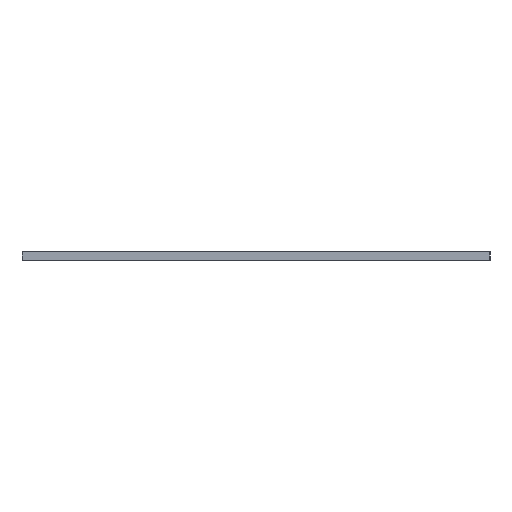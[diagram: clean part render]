
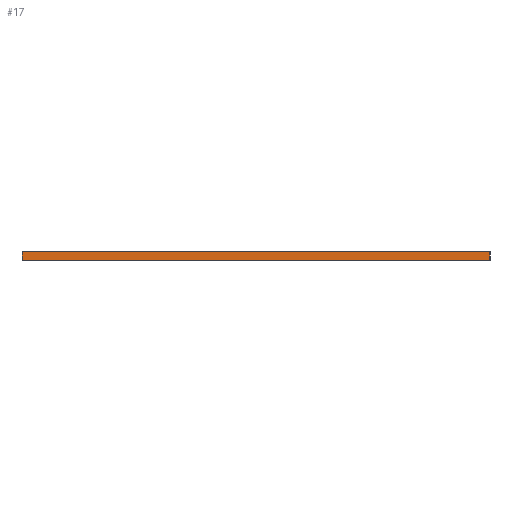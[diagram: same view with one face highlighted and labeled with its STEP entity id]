
A CAD part, left-side view. The second image highlights one B-rep face of the part: STEP entity #17.
In plain terms, the highlighted planar face has unit normal (-1, 0, 0).
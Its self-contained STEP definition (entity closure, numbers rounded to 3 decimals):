
#17 = ADVANCED_FACE('',(#18),#32,.F.);
#18 = FACE_BOUND('',#19,.F.);
#19 = EDGE_LOOP('',(#20,#55,#83,#111));
#20 = ORIENTED_EDGE('',*,*,#21,.F.);
#21 = EDGE_CURVE('',#22,#24,#26,.T.);
#22 = VERTEX_POINT('',#23);
#23 = CARTESIAN_POINT('',(0.,0.,0.));
#24 = VERTEX_POINT('',#25);
#25 = CARTESIAN_POINT('',(0.,0.,18.));
#26 = SURFACE_CURVE('',#27,(#31,#43),.PCURVE_S1.);
#27 = LINE('',#28,#29);
#28 = CARTESIAN_POINT('',(0.,0.,0.));
#29 = VECTOR('',#30,1.);
#30 = DIRECTION('',(0.,0.,1.));
#31 = PCURVE('',#32,#37);
#32 = PLANE('',#33);
#33 = AXIS2_PLACEMENT_3D('',#34,#35,#36);
#34 = CARTESIAN_POINT('',(0.,0.,0.));
#35 = DIRECTION('',(1.,0.,-0.));
#36 = DIRECTION('',(0.,0.,1.));
#37 = DEFINITIONAL_REPRESENTATION('',(#38),#42);
#38 = LINE('',#39,#40);
#39 = CARTESIAN_POINT('',(0.,0.));
#40 = VECTOR('',#41,1.);
#41 = DIRECTION('',(1.,0.));
#42 = ( GEOMETRIC_REPRESENTATION_CONTEXT(2) 
PARAMETRIC_REPRESENTATION_CONTEXT() REPRESENTATION_CONTEXT('2D SPACE',''
  ) );
#43 = PCURVE('',#44,#49);
#44 = PLANE('',#45);
#45 = AXIS2_PLACEMENT_3D('',#46,#47,#48);
#46 = CARTESIAN_POINT('',(0.,0.,0.));
#47 = DIRECTION('',(-0.,1.,0.));
#48 = DIRECTION('',(0.,0.,1.));
#49 = DEFINITIONAL_REPRESENTATION('',(#50),#54);
#50 = LINE('',#51,#52);
#51 = CARTESIAN_POINT('',(0.,0.));
#52 = VECTOR('',#53,1.);
#53 = DIRECTION('',(1.,0.));
#54 = ( GEOMETRIC_REPRESENTATION_CONTEXT(2) 
PARAMETRIC_REPRESENTATION_CONTEXT() REPRESENTATION_CONTEXT('2D SPACE',''
  ) );
#55 = ORIENTED_EDGE('',*,*,#56,.T.);
#56 = EDGE_CURVE('',#22,#57,#59,.T.);
#57 = VERTEX_POINT('',#58);
#58 = CARTESIAN_POINT('',(0.,1000.,0.));
#59 = SURFACE_CURVE('',#60,(#64,#71),.PCURVE_S1.);
#60 = LINE('',#61,#62);
#61 = CARTESIAN_POINT('',(0.,0.,0.));
#62 = VECTOR('',#63,1.);
#63 = DIRECTION('',(-0.,1.,0.));
#64 = PCURVE('',#32,#65);
#65 = DEFINITIONAL_REPRESENTATION('',(#66),#70);
#66 = LINE('',#67,#68);
#67 = CARTESIAN_POINT('',(0.,0.));
#68 = VECTOR('',#69,1.);
#69 = DIRECTION('',(0.,-1.));
#70 = ( GEOMETRIC_REPRESENTATION_CONTEXT(2) 
PARAMETRIC_REPRESENTATION_CONTEXT() REPRESENTATION_CONTEXT('2D SPACE',''
  ) );
#71 = PCURVE('',#72,#77);
#72 = PLANE('',#73);
#73 = AXIS2_PLACEMENT_3D('',#74,#75,#76);
#74 = CARTESIAN_POINT('',(0.,0.,0.));
#75 = DIRECTION('',(0.,0.,1.));
#76 = DIRECTION('',(1.,0.,-0.));
#77 = DEFINITIONAL_REPRESENTATION('',(#78),#82);
#78 = LINE('',#79,#80);
#79 = CARTESIAN_POINT('',(0.,0.));
#80 = VECTOR('',#81,1.);
#81 = DIRECTION('',(0.,1.));
#82 = ( GEOMETRIC_REPRESENTATION_CONTEXT(2) 
PARAMETRIC_REPRESENTATION_CONTEXT() REPRESENTATION_CONTEXT('2D SPACE',''
  ) );
#83 = ORIENTED_EDGE('',*,*,#84,.T.);
#84 = EDGE_CURVE('',#57,#85,#87,.T.);
#85 = VERTEX_POINT('',#86);
#86 = CARTESIAN_POINT('',(0.,1000.,18.));
#87 = SURFACE_CURVE('',#88,(#92,#99),.PCURVE_S1.);
#88 = LINE('',#89,#90);
#89 = CARTESIAN_POINT('',(0.,1000.,0.));
#90 = VECTOR('',#91,1.);
#91 = DIRECTION('',(0.,0.,1.));
#92 = PCURVE('',#32,#93);
#93 = DEFINITIONAL_REPRESENTATION('',(#94),#98);
#94 = LINE('',#95,#96);
#95 = CARTESIAN_POINT('',(0.,-1000.));
#96 = VECTOR('',#97,1.);
#97 = DIRECTION('',(1.,0.));
#98 = ( GEOMETRIC_REPRESENTATION_CONTEXT(2) 
PARAMETRIC_REPRESENTATION_CONTEXT() REPRESENTATION_CONTEXT('2D SPACE',''
  ) );
#99 = PCURVE('',#100,#105);
#100 = PLANE('',#101);
#101 = AXIS2_PLACEMENT_3D('',#102,#103,#104);
#102 = CARTESIAN_POINT('',(0.,1000.,0.));
#103 = DIRECTION('',(-0.,1.,0.));
#104 = DIRECTION('',(0.,0.,1.));
#105 = DEFINITIONAL_REPRESENTATION('',(#106),#110);
#106 = LINE('',#107,#108);
#107 = CARTESIAN_POINT('',(0.,0.));
#108 = VECTOR('',#109,1.);
#109 = DIRECTION('',(1.,0.));
#110 = ( GEOMETRIC_REPRESENTATION_CONTEXT(2) 
PARAMETRIC_REPRESENTATION_CONTEXT() REPRESENTATION_CONTEXT('2D SPACE',''
  ) );
#111 = ORIENTED_EDGE('',*,*,#112,.F.);
#112 = EDGE_CURVE('',#24,#85,#113,.T.);
#113 = SURFACE_CURVE('',#114,(#118,#125),.PCURVE_S1.);
#114 = LINE('',#115,#116);
#115 = CARTESIAN_POINT('',(0.,0.,18.));
#116 = VECTOR('',#117,1.);
#117 = DIRECTION('',(-0.,1.,0.));
#118 = PCURVE('',#32,#119);
#119 = DEFINITIONAL_REPRESENTATION('',(#120),#124);
#120 = LINE('',#121,#122);
#121 = CARTESIAN_POINT('',(18.,0.));
#122 = VECTOR('',#123,1.);
#123 = DIRECTION('',(0.,-1.));
#124 = ( GEOMETRIC_REPRESENTATION_CONTEXT(2) 
PARAMETRIC_REPRESENTATION_CONTEXT() REPRESENTATION_CONTEXT('2D SPACE',''
  ) );
#125 = PCURVE('',#126,#131);
#126 = PLANE('',#127);
#127 = AXIS2_PLACEMENT_3D('',#128,#129,#130);
#128 = CARTESIAN_POINT('',(0.,0.,18.));
#129 = DIRECTION('',(0.,0.,1.));
#130 = DIRECTION('',(1.,0.,-0.));
#131 = DEFINITIONAL_REPRESENTATION('',(#132),#136);
#132 = LINE('',#133,#134);
#133 = CARTESIAN_POINT('',(0.,0.));
#134 = VECTOR('',#135,1.);
#135 = DIRECTION('',(0.,1.));
#136 = ( GEOMETRIC_REPRESENTATION_CONTEXT(2) 
PARAMETRIC_REPRESENTATION_CONTEXT() REPRESENTATION_CONTEXT('2D SPACE',''
  ) );
